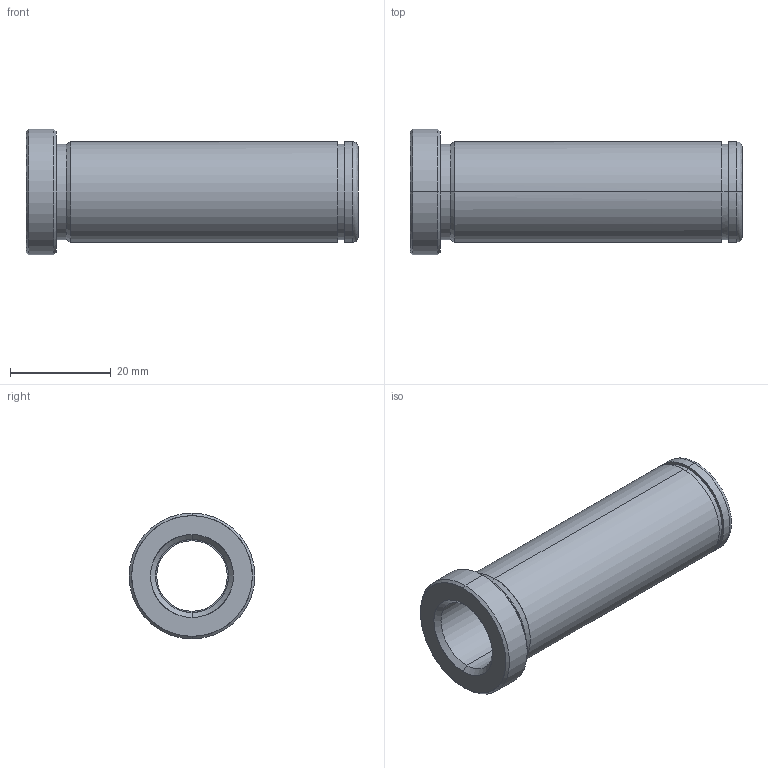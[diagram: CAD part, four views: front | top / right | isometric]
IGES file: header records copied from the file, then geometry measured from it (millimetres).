
Start section: START RECORD GO HERE.
Global section: file name: 553-14X66.igs; native system: DASSAULT SYSTEMES CATIA V5 R20 - www.3ds.com; preprocessor: CATIA Version 5 Release 20 ; author: Utente; organization: NB04-ASUS; date: 20210521.202325; units: millimetre
Bounding box: 66 x 25 x 25 mm (x, y, z)
Surface area: 7810.9 mm2 (no closed solid volume)
Topology: 0 solids, 0 shells, 32 faces, 204 edges, 204 vertices
Faces by surface type: revolution 26, plane 6
